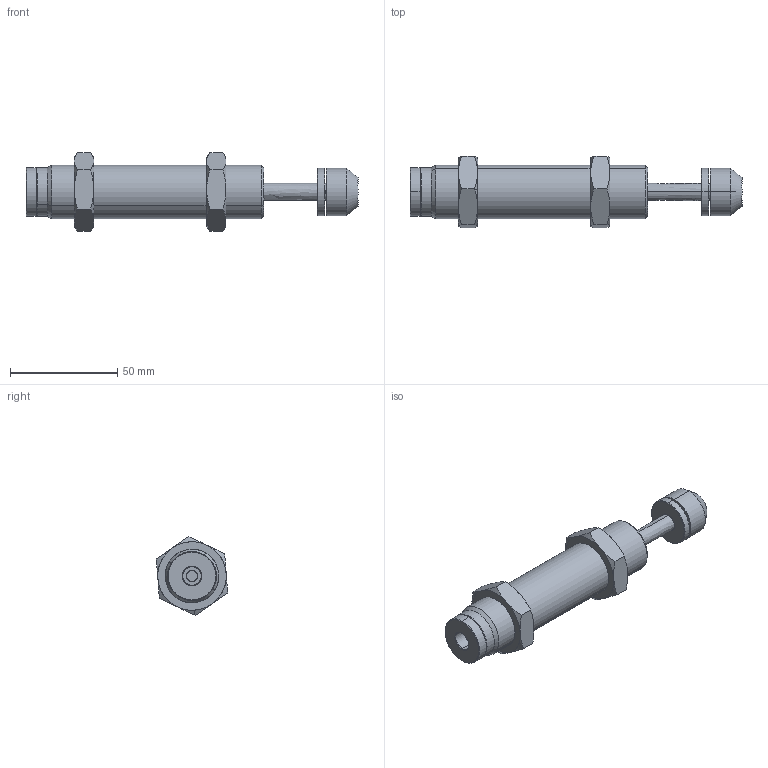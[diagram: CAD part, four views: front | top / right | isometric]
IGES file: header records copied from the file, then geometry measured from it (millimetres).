
Start section: SolidWorks IGES file using analytic representation for surfaces
Global section: file name: D:\IGS跡宒\AC2525(P2.0).IGS,1; native system: 5HSolidWorks 2013; preprocessor: SolidWorks 2013; author: Administrator; date: 160412.105907; units: inch
Bounding box: 155 x 33.33 x 36.84 mm (x, y, z)
Surface area: 17897.9 mm2 (no closed solid volume)
Topology: 0 solids, 0 shells, 111 faces, 1604 edges, 1604 vertices
Faces by surface type: revolution 86, bspline 25
